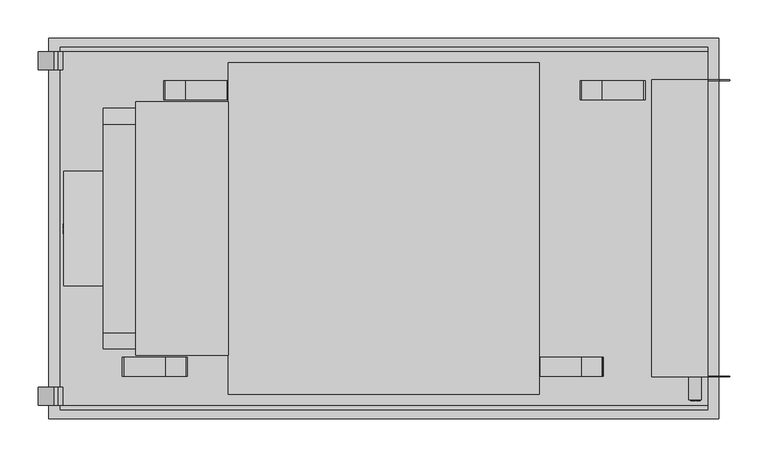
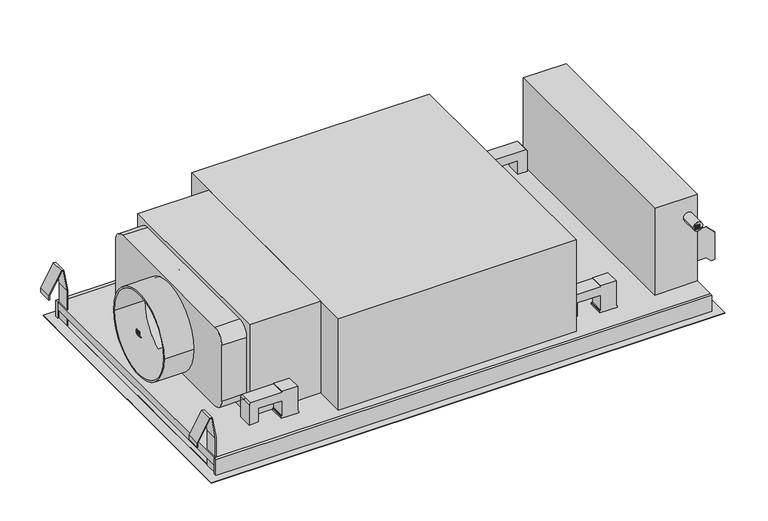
"""IFC4 building model written with IfcOpenShell, lengths in millimetres: proxy geometry, 12564110_NER_DAC2940_WSMA : 28C2940H_NER_12564110_DAC2940_WSMA."""

from ifc_helpers import new_model, si_unit, point, frame, frame_2d, origin, origin_with_axes, place, context, project, spatial, polyline, circle_curve, ellipse_curve, trimmed, segment, composite_curve, outline, extrude, faceted_brep, source, transform, mapped, element, save
from ifc_brep_helpers import plane_surface, cylinder_surface, revolved_surface, extruded_surface, advanced_brep


def specialty_equipment_2b08fcfb(model_context):
    return source(origin(), model_context, "Body", "SolidModel", [
        extrude(outline(polyline([(0.0, 0.0), (1.1495, 0.0), (1.1495, 6.3555), (0.0, 6.3555), (0.0, 7.9515), (4.18, 7.9515), (4.18, 6.3555), (3.04, 6.3555), (3.04, 2.3238752), (7.2865, 7.9515), (11.552, 2.1987777), (11.552, 6.3555), (10.3835, 6.3555), (10.3835, 7.9515), (17.9645, 7.9515), (17.9645, 6.3555), (16.758, 6.3555), (16.758, 0.0), (17.9645, 0.0), (17.9645, -1.5485), (12.179, -1.5485), (9.405, 2.014), (6.6215, -1.5485), (0.0, -1.5485), (0.0, 0.0)])), frame((-394.9682202, 221.9339142, 5.9781829), z_axis=(-0.25881904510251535, 0.0, 0.9659258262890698), x_axis=(0.0, 1.0, 0.0)), (0.0, 0.0, 1.0), 1.0),
        extrude(outline(polyline([(0.0, 0.0), (1.14, 0.0), (1.14, 6.3555), (0.0, 6.3555), (0.0, 7.9515), (7.7045, 7.9515), (7.7045, 6.3555), (6.536, 6.3555), (6.536, -1.5485), (0.0, -1.5485), (0.0, 0.0)])), frame((-394.9682202, 260.4849142, 5.9781829), z_axis=(-0.25881904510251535, 0.0, 0.9659258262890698), x_axis=(0.0, 1.0, 0.0)), (0.0, 0.0, 1.0), 1.0),
        extrude(outline(polyline([(0.0, 0.0), (1.6999427, 0.0), (1.7088618, -3.5531031), (0.012954, -3.5617037), (0.0, 0.0)])), frame((-394.0138855, 243.2139142, 6.2338962), z_axis=(-0.25881904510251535, 0.0, 0.9659258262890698), x_axis=(-0.8744764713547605, 0.42472021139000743, -0.23431526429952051)), (0.0, 0.0, 1.0), 1.0),
        extrude(outline(polyline([(0.5859016, 2.8667553), (2.1254061, 3.588992), (2.6055523, 2.5655224), (6.1317919, 4.2198077), (5.6516457, 5.2432772), (7.0965438, 5.9211306), (10.2800342, -0.8647304), (8.835136, -1.5425838), (8.3670943, -0.544916), (3.3013503, -2.921438), (0.5859016, 2.8667553)])), frame((-394.0138855, 243.2139142, 6.2338962), z_axis=(-0.25881904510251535, 0.0, 0.9659258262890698), x_axis=(-0.8744764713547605, 0.42472021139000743, -0.23431526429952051)), (0.0, 0.0, 1.0), 1.0),
        advanced_brep(
        [(-400.4739974, 253.5974142, 4.5029144), (-399.5471916, 253.5974142, 4.7512513), (-399.5471916, 259.9529142, 4.7512513), (-399.5471916, 248.8949142, 4.7512513), (-402.6487794, 251.5074142, 3.9201833), (-400.4739974, 259.7914142, 4.5029144), (-400.4739974, 256.9224142, 4.5029144), (-401.5017425, 254.6614142, 4.2275309), (-398.3726258, 253.5974142, 5.0659752), (-397.3724096, 253.5974142, 5.3339823), (-397.3724096, 255.2219142, 5.3339823), (-398.3726258, 255.2219142, 5.0659752), (-400.7328165, 253.5974142, 5.4688402), (-401.7605616, 254.6614142, 5.1934567), (-400.7328165, 256.9224142, 5.4688402), (-400.7328165, 259.7914142, 5.4688402), (-402.9075985, 251.5074142, 4.8861091), (-399.8060106, 248.8949142, 5.7171771), (-399.8060106, 259.9529142, 5.7171771), (-399.8060106, 253.5974142, 5.7171771), (-398.6314448, 253.5974142, 6.031901), (-398.6314448, 255.2219142, 6.031901), (-397.6312286, 255.2219142, 6.2999082), (-397.6312286, 253.5974142, 6.2999082)],
        [
            (0, 1),
            (1, 2),
            (2, 3, ellipse_curve(frame((-399.5471916, 254.4239142, 4.7512513), z_axis=(0.25881904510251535, 0.0, -0.9659258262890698), x_axis=(0.0, -1.0, 0.0)), 5.529, 4.5695)),
            (3, 4, circle_curve(frame((-399.2351976, 252.571466, 4.8348498), z_axis=(0.25881904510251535, 0.0, -0.9659258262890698), x_axis=(-0.9659258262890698, 0.0, -0.25881904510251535)), 3.690713)),
            (4, 5, circle_curve(frame((-396.8126556, 254.3132316, 5.483968), z_axis=(0.25881904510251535, 0.0, -0.9659258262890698), x_axis=(-0.9659258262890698, 0.0, -0.25881904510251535)), 6.6617096)),
            (5, 6),
            (6, 7, circle_curve(frame((-399.620602, 255.1257966, 4.731581), z_axis=(-0.25881904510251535, 0.0, 0.9659258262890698), x_axis=(-0.9659258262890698, 0.0, -0.25881904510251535)), 2.0021007)),
            (7, 0, circle_curve(frame((-400.4739974, 254.6614142, 4.5029144), z_axis=(-0.25881904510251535, 0.0, 0.9659258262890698), x_axis=(-0.9659258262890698, 0.0, -0.25881904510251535)), 1.064)),
            (8, 9),
            (9, 10, circle_curve(frame((-397.3724096, 254.4096642, 5.3339823), z_axis=(-0.25881904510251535, 0.0, 0.9659258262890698), x_axis=(-0.9659258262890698, 0.0, -0.25881904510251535)), 0.81225)),
            (10, 11),
            (11, 8),
            (12, 13, circle_curve(frame((-400.7328165, 254.6614142, 5.4688402), z_axis=(0.25881904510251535, 0.0, -0.9659258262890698), x_axis=(-0.9659258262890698, 0.0, -0.25881904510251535)), 1.064)),
            (13, 14, circle_curve(frame((-399.879421, 255.1257966, 5.6975068), z_axis=(0.25881904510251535, 0.0, -0.9659258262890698), x_axis=(-0.9659258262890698, 0.0, -0.25881904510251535)), 2.0021007)),
            (14, 15),
            (15, 16, circle_curve(frame((-397.0714746, 254.3132316, 6.4498938), z_axis=(-0.25881904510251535, 0.0, 0.9659258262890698), x_axis=(-0.9659258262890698, 0.0, -0.25881904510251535)), 6.6617096)),
            (16, 17, circle_curve(frame((-399.4940166, 252.571466, 5.8007756), z_axis=(-0.25881904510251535, 0.0, 0.9659258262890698), x_axis=(-0.9659258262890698, 0.0, -0.25881904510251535)), 3.690713)),
            (17, 18, ellipse_curve(frame((-399.8060106, 254.4239142, 5.7171771), z_axis=(-0.25881904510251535, 0.0, 0.9659258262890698), x_axis=(0.0, -1.0, 0.0)), 5.529, 4.5695)),
            (18, 19),
            (19, 12),
            (20, 21),
            (21, 22),
            (22, 23, circle_curve(frame((-397.6312286, 254.4096642, 6.2999082), z_axis=(0.25881904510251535, 0.0, -0.9659258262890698), x_axis=(-0.9659258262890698, 0.0, -0.25881904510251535)), 0.81225)),
            (23, 20),
            (0, 12),
            (19, 1),
            (18, 2),
            (5, 15),
            (14, 6),
            (17, 3),
            (13, 7),
            (16, 4),
            (8, 20),
            (23, 9),
            (22, 10),
            (21, 11),
        ],
        [
            plane_surface(frame((-399.5471916, 253.5974142, 4.7512513), z_axis=(0.25881904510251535, 0.0, -0.9659258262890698), x_axis=(0.9659258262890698, 0.0, 0.25881904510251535))),
            plane_surface(frame((-399.8060106, 253.5974142, 5.7171771), z_axis=(-0.25881904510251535, 0.0, 0.9659258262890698), x_axis=(-0.9659258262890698, 0.0, -0.25881904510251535))),
            plane_surface(frame((-400.4739974, 253.5974142, 4.5029144), z_axis=(0.0, 1.0000000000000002, 0.0), x_axis=(-0.2588190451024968, 0.0, 0.9659258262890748))),
            plane_surface(frame((-399.5471916, 253.5974142, 4.7512513), z_axis=(-0.9659258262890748, 0.0, -0.2588190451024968), x_axis=(-0.2588190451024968, 0.0, 0.9659258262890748))),
            plane_surface(frame((-400.4739974, 259.7914142, 4.5029144), z_axis=(0.9659258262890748, 0.0, 0.2588190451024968), x_axis=(-0.2588190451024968, 0.0, 0.9659258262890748))),
            extruded_surface(trimmed(ellipse_curve(frame((-400.0648297, 254.4239142, 6.6831029), z_axis=(0.25881904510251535, 0.0, -0.9659258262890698), x_axis=(0.0, -1.0, 0.0)), 5.529, 4.5695), [point((-400.0648297, 259.9529142, 6.6831029))], [point((-400.0648297, 248.8949142, 6.6831029))], True, "CARTESIAN"), (0.25881910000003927, 0.0, -0.9659258), 0.999999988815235),
            revolved_surface(polyline([(-401.81330178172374, 255.1257966, 5.179325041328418), (-401.55448273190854, 255.1257966, 4.213399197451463)]), (-399.879421, 255.1257966, 5.6975068), (-0.25881904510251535, 0.0, 0.9659258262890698)),
            revolved_surface(polyline([(-401.76056157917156, 254.6614142, 5.193456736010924), (-401.50174252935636, 254.6614142, 4.227530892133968)]), (-400.7328165, 254.6614142, 5.4688402), (-0.25881904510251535, 0.0, 0.9659258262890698)),
            cylinder_surface(frame((-399.4940166, 252.571466, 5.8007756), z_axis=(0.25881904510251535, 0.0, -0.9659258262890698), x_axis=(-0.9659258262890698, 0.0, -0.25881904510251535)), 3.690713),
            cylinder_surface(frame((-397.0714746, 254.3132316, 6.4498938), z_axis=(0.25881904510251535, 0.0, -0.9659258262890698), x_axis=(-0.9659258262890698, 0.0, -0.25881904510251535)), 6.6617096),
            plane_surface(frame((-398.3726258, 253.5974142, 5.0659752), z_axis=(0.0, 1.0000000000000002, 0.0), x_axis=(-0.2588190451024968, 0.0, 0.9659258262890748))),
            revolved_surface(polyline([(-398.41580185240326, 254.4096642, 6.089682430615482), (-398.15698279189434, 254.4096642, 5.123756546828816)]), (-397.6312286, 254.4096642, 6.2999082), (-0.25881904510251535, 0.0, 0.9659258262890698)),
            plane_surface(frame((-397.3724096, 255.2219142, 5.3339823), z_axis=(0.0, -1.0000000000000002, 0.0), x_axis=(-0.2588190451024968, 0.0, 0.9659258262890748))),
            plane_surface(frame((-398.3726258, 255.2219142, 5.0659752), z_axis=(0.9659258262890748, 0.0, 0.2588190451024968), x_axis=(-0.2588190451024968, 0.0, 0.9659258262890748))),
        ],
        [
            (0, [[1, 2, 3, 4, 5, 6, 7, 8], [9, 10, 11, 12]]),
            (1, [[13, 14, 15, 16, 17, 18, 19, 20], [21, 22, 23, 24]]),
            (2, [[-1, 25, -20, 26]]),
            (3, [[-2, -26, -19, 27]]),
            (4, [[-6, 28, -15, 29]]),
            (5, [[-3, -27, -18, 30]]),
            (6, [[-7, -29, -14, 31]]),
            (7, [[-8, -31, -13, -25]]),
            (8, [[-4, -30, -17, 32]]),
            (9, [[-5, -32, -16, -28]]),
            (10, [[-9, 33, -24, 34]]),
            (11, [[-10, -34, -23, 35]]),
            (12, [[-11, -35, -22, 36]]),
            (13, [[-12, -36, -21, -33]]),
        ],
    ),
        advanced_brep(
        [(-400.4739974, 273.4239142, 4.5029144), (-399.5471916, 273.4239142, 4.7512513), (-399.5471916, 279.7794142, 4.7512513), (-399.5471916, 268.7214142, 4.7512513), (-402.6487794, 271.3339142, 3.9201833), (-400.4739974, 279.6179142, 4.5029144), (-400.4739974, 276.7489142, 4.5029144), (-401.5017425, 274.4879142, 4.2275309), (-398.3726258, 273.4239142, 5.0659752), (-397.3724096, 273.4239142, 5.3339823), (-397.3724096, 275.0484142, 5.3339823), (-398.3726258, 275.0484142, 5.0659752), (-400.7328165, 273.4239142, 5.4688402), (-401.7605616, 274.4879142, 5.1934567), (-400.7328165, 276.7489142, 5.4688402), (-400.7328165, 279.6179142, 5.4688402), (-402.9075985, 271.3339142, 4.8861091), (-399.8060106, 268.7214142, 5.7171771), (-399.8060106, 279.7794142, 5.7171771), (-399.8060106, 273.4239142, 5.7171771), (-398.6314448, 273.4239142, 6.031901), (-398.6314448, 275.0484142, 6.031901), (-397.6312286, 275.0484142, 6.2999082), (-397.6312286, 273.4239142, 6.2999082)],
        [
            (0, 1),
            (1, 2),
            (2, 3, ellipse_curve(frame((-399.5471916, 274.2504142, 4.7512513), z_axis=(0.25881904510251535, 0.0, -0.9659258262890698), x_axis=(0.0, -1.0, 0.0)), 5.529, 4.5695)),
            (3, 4, circle_curve(frame((-399.2351976, 272.397966, 4.8348498), z_axis=(0.25881904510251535, 0.0, -0.9659258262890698), x_axis=(-0.9659258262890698, 0.0, -0.25881904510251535)), 3.690713)),
            (4, 5, circle_curve(frame((-396.8126556, 274.1397316, 5.483968), z_axis=(0.25881904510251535, 0.0, -0.9659258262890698), x_axis=(-0.9659258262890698, 0.0, -0.25881904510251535)), 6.6617096)),
            (5, 6),
            (6, 7, circle_curve(frame((-399.620602, 274.9522966, 4.731581), z_axis=(-0.25881904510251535, 0.0, 0.9659258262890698), x_axis=(-0.9659258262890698, 0.0, -0.25881904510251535)), 2.0021007)),
            (7, 0, circle_curve(frame((-400.4739974, 274.4879142, 4.5029144), z_axis=(-0.25881904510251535, 0.0, 0.9659258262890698), x_axis=(-0.9659258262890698, 0.0, -0.25881904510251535)), 1.064)),
            (8, 9),
            (9, 10, circle_curve(frame((-397.3724096, 274.2361642, 5.3339823), z_axis=(-0.25881904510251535, 0.0, 0.9659258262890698), x_axis=(-0.9659258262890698, 0.0, -0.25881904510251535)), 0.81225)),
            (10, 11),
            (11, 8),
            (12, 13, circle_curve(frame((-400.7328165, 274.4879142, 5.4688402), z_axis=(0.25881904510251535, 0.0, -0.9659258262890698), x_axis=(-0.9659258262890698, 0.0, -0.25881904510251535)), 1.064)),
            (13, 14, circle_curve(frame((-399.879421, 274.9522966, 5.6975068), z_axis=(0.25881904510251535, 0.0, -0.9659258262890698), x_axis=(-0.9659258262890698, 0.0, -0.25881904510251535)), 2.0021007)),
            (14, 15),
            (15, 16, circle_curve(frame((-397.0714746, 274.1397316, 6.4498938), z_axis=(-0.25881904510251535, 0.0, 0.9659258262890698), x_axis=(-0.9659258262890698, 0.0, -0.25881904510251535)), 6.6617096)),
            (16, 17, circle_curve(frame((-399.4940166, 272.397966, 5.8007756), z_axis=(-0.25881904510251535, 0.0, 0.9659258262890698), x_axis=(-0.9659258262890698, 0.0, -0.25881904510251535)), 3.690713)),
            (17, 18, ellipse_curve(frame((-399.8060106, 274.2504142, 5.7171771), z_axis=(-0.25881904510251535, 0.0, 0.9659258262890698), x_axis=(0.0, -1.0, 0.0)), 5.529, 4.5695)),
            (18, 19),
            (19, 12),
            (20, 21),
            (21, 22),
            (22, 23, circle_curve(frame((-397.6312286, 274.2361642, 6.2999082), z_axis=(0.25881904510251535, 0.0, -0.9659258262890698), x_axis=(-0.9659258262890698, 0.0, -0.25881904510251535)), 0.81225)),
            (23, 20),
            (0, 12),
            (19, 1),
            (18, 2),
            (5, 15),
            (14, 6),
            (17, 3),
            (13, 7),
            (16, 4),
            (8, 20),
            (23, 9),
            (22, 10),
            (21, 11),
        ],
        [
            plane_surface(frame((-399.5471916, 273.4239142, 4.7512513), z_axis=(0.25881904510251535, 0.0, -0.9659258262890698), x_axis=(0.9659258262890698, 0.0, 0.25881904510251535))),
            plane_surface(frame((-399.8060106, 273.4239142, 5.7171771), z_axis=(-0.25881904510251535, 0.0, 0.9659258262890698), x_axis=(-0.9659258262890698, 0.0, -0.25881904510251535))),
            plane_surface(frame((-400.4739974, 273.4239142, 4.5029144), z_axis=(0.0, 1.0000000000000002, 0.0), x_axis=(-0.2588190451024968, 0.0, 0.9659258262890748))),
            plane_surface(frame((-399.5471916, 273.4239142, 4.7512513), z_axis=(-0.9659258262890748, 0.0, -0.2588190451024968), x_axis=(-0.2588190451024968, 0.0, 0.9659258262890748))),
            plane_surface(frame((-400.4739974, 279.6179142, 4.5029144), z_axis=(0.9659258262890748, 0.0, 0.2588190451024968), x_axis=(-0.2588190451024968, 0.0, 0.9659258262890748))),
            extruded_surface(trimmed(ellipse_curve(frame((-400.0648297, 274.2504142, 6.6831029), z_axis=(0.25881904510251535, 0.0, -0.9659258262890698), x_axis=(0.0, -1.0, 0.0)), 5.529, 4.5695), [point((-400.0648297, 279.7794142, 6.6831029))], [point((-400.0648297, 268.7214142, 6.6831029))], True, "CARTESIAN"), (0.25881910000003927, 0.0, -0.9659258), 0.999999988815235),
            revolved_surface(polyline([(-401.81330178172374, 274.9522966, 5.179325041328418), (-401.55448273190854, 274.9522966, 4.213399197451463)]), (-399.879421, 274.9522966, 5.6975068), (-0.25881904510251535, 0.0, 0.9659258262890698)),
            revolved_surface(polyline([(-401.76056157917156, 274.4879142, 5.193456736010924), (-401.50174252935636, 274.4879142, 4.227530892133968)]), (-400.7328165, 274.4879142, 5.4688402), (-0.25881904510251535, 0.0, 0.9659258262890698)),
            cylinder_surface(frame((-399.4940166, 272.397966, 5.8007756), z_axis=(0.25881904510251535, 0.0, -0.9659258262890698), x_axis=(-0.9659258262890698, 0.0, -0.25881904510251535)), 3.690713),
            cylinder_surface(frame((-397.0714746, 274.1397316, 6.4498938), z_axis=(0.25881904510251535, 0.0, -0.9659258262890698), x_axis=(-0.9659258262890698, 0.0, -0.25881904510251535)), 6.6617096),
            plane_surface(frame((-398.3726258, 273.4239142, 5.0659752), z_axis=(0.0, 1.0000000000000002, 0.0), x_axis=(-0.2588190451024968, 0.0, 0.9659258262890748))),
            revolved_surface(polyline([(-398.41580185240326, 274.2361642, 6.089682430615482), (-398.15698279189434, 274.2361642, 5.123756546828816)]), (-397.6312286, 274.2361642, 6.2999082), (-0.25881904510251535, 0.0, 0.9659258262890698)),
            plane_surface(frame((-397.3724096, 275.0484142, 5.3339823), z_axis=(0.0, -1.0000000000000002, 0.0), x_axis=(-0.2588190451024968, 0.0, 0.9659258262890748))),
            plane_surface(frame((-398.3726258, 275.0484142, 5.0659752), z_axis=(0.9659258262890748, 0.0, 0.2588190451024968), x_axis=(-0.2588190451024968, 0.0, 0.9659258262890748))),
        ],
        [
            (0, [[1, 2, 3, 4, 5, 6, 7, 8], [9, 10, 11, 12]]),
            (1, [[13, 14, 15, 16, 17, 18, 19, 20], [21, 22, 23, 24]]),
            (2, [[-1, 25, -20, 26]]),
            (3, [[-2, -26, -19, 27]]),
            (4, [[-6, 28, -15, 29]]),
            (5, [[-3, -27, -18, 30]]),
            (6, [[-7, -29, -14, 31]]),
            (7, [[-8, -31, -13, -25]]),
            (8, [[-4, -30, -17, 32]]),
            (9, [[-5, -32, -16, -28]]),
            (10, [[-9, 33, -24, 34]]),
            (11, [[-10, -34, -23, 35]]),
            (12, [[-11, -35, -22, 36]]),
            (13, [[-12, -36, -21, -33]]),
        ],
    ),
        extrude(outline(polyline([(-204.0, 416.5106201), (-204.0, 83.4893799), (-326.0, 83.4893799), (-326.0, 416.5106201), (-204.0, 416.5106201)])), frame((0.0, 0.0, 30.0), z_axis=(0.0, 0.0, 1.0), x_axis=(1.0, 0.0, 0.0)), (0.0, 0.0, 1.0), 166.0),
        extrude(outline(polyline([(425.1935243, 445.0), (425.1935243, 55.0), (351.6000061, 55.0), (351.6000061, 445.0), (425.1935243, 445.0)])), frame((0.0, 0.0, 30.0), z_axis=(0.0, 0.0, 1.0), x_axis=(1.0, 0.0, 0.0)), (0.0, 0.0, 1.0), 157.6000061),
        advanced_brep(
        [(-326.0, 407.6883545, 67.4832764), (-326.0, 407.6883545, 168.5167236), (-326.0, 387.0167236, 189.1883545), (-326.0, 112.9832764, 189.1883545), (-326.0, 92.3116455, 168.5167236), (-326.0, 92.3116455, 67.4832764), (-326.0, 112.9832764, 46.8116455), (-326.0, 211.5404146, 46.8116455), (-326.0, 288.4595854, 46.8116455), (-326.0, 387.0167236, 46.8116455), (-326.0, 322.0, 111.2000008), (-326.0, 282.2201755, 46.8116455), (-326.0, 217.7798245, 46.8116455), (-326.0, 178.0, 111.2000008), (-368.7057465, 407.6883545, 67.4832764), (-368.7057465, 387.0167236, 46.8116455), (-368.7057465, 288.4595854, 46.8116455), (-368.7057465, 325.0, 111.2000008), (-368.7057465, 175.0, 111.2000008), (-368.7057465, 211.5404146, 46.8116455), (-368.7057465, 112.9832764, 46.8116455), (-368.7057465, 92.3116455, 67.4832764), (-368.7057465, 92.3116455, 168.5167236), (-368.7057465, 112.9832764, 189.1883545), (-368.7057465, 387.0167236, 189.1883545), (-368.7057465, 407.6883545, 168.5167236), (-420.0, 175.0, 111.2000008), (-420.0, 325.0, 111.2000008), (-420.0, 178.0, 111.2000008), (-420.0, 322.0, 111.2000008), (-368.7057465, 322.0, 111.2000008), (-368.7057465, 178.0, 111.2000008), (-368.7057465, 217.7798245, 46.8116455), (-368.7057465, 282.2201755, 46.8116455)],
        [
            (0, 1),
            (1, 2, circle_curve(frame((-326.0, 387.0167236, 168.5167236), z_axis=(1.0, 0.0, 0.0), x_axis=(0.0, 1.0, 0.0)), 20.6716309)),
            (2, 3),
            (3, 4, circle_curve(frame((-326.0, 112.9832764, 168.5167236), z_axis=(1.0, 0.0, 0.0), x_axis=(0.0, 1.0, 0.0)), 20.6716309)),
            (4, 5),
            (5, 6, circle_curve(frame((-326.0, 112.9832764, 67.4832764), z_axis=(1.0, 0.0, 0.0), x_axis=(0.0, 1.0, 0.0)), 20.6716309)),
            (6, 7),
            (7, 8, circle_curve(frame((-326.0, 250.0, 111.2000008), z_axis=(1.0, 0.0, 0.0), x_axis=(0.0, 1.0, 0.0)), 75.0)),
            (8, 9),
            (9, 0, circle_curve(frame((-326.0, 387.0167236, 67.4832764), z_axis=(1.0, 0.0, 0.0), x_axis=(0.0, 1.0, 0.0)), 20.6716309)),
            (10, 11, circle_curve(frame((-326.0, 250.0, 111.2000008), z_axis=(-1.0, 0.0, 0.0), x_axis=(0.0, 1.0, 0.0)), 72.0)),
            (11, 12, circle_curve(frame((-326.0, 250.0, 111.2000008), z_axis=(-1.0, 0.0, 0.0), x_axis=(0.0, 1.0, 0.0)), 72.0)),
            (12, 13, circle_curve(frame((-326.0, 250.0, 111.2000008), z_axis=(-1.0, 0.0, 0.0), x_axis=(0.0, 1.0, 0.0)), 72.0)),
            (13, 10, circle_curve(frame((-326.0, 250.0, 111.2000008), z_axis=(-1.0, 0.0, 0.0), x_axis=(0.0, 1.0, 0.0)), 72.0)),
            (14, 15, circle_curve(frame((-368.7057465, 387.0167236, 67.4832764), z_axis=(-1.0, 0.0, 0.0), x_axis=(0.0, 1.0, 0.0)), 20.6716309)),
            (15, 16),
            (16, 17, circle_curve(frame((-368.7057465, 250.0, 111.2000008), z_axis=(1.0, 0.0, 0.0), x_axis=(0.0, 1.0, 0.0)), 75.0)),
            (17, 18, circle_curve(frame((-368.7057465, 250.0, 111.2000008), z_axis=(1.0, 0.0, 0.0), x_axis=(0.0, 1.0, 0.0)), 75.0)),
            (18, 19, circle_curve(frame((-368.7057465, 250.0, 111.2000008), z_axis=(1.0, 0.0, 0.0), x_axis=(0.0, 1.0, 0.0)), 75.0)),
            (19, 20),
            (20, 21, circle_curve(frame((-368.7057465, 112.9832764, 67.4832764), z_axis=(-1.0, 0.0, 0.0), x_axis=(0.0, 1.0, 0.0)), 20.6716309)),
            (21, 22),
            (22, 23, circle_curve(frame((-368.7057465, 112.9832764, 168.5167236), z_axis=(-1.0, 0.0, 0.0), x_axis=(0.0, 1.0, 0.0)), 20.6716309)),
            (23, 24),
            (24, 25, circle_curve(frame((-368.7057465, 387.0167236, 168.5167236), z_axis=(-1.0, 0.0, 0.0), x_axis=(0.0, 1.0, 0.0)), 20.6716309)),
            (25, 14),
            (0, 14),
            (25, 1),
            (24, 2),
            (23, 3),
            (22, 4),
            (21, 5),
            (20, 6),
            (19, 7),
            (15, 9),
            (8, 16),
            (26, 27, circle_curve(frame((-420.0, 250.0, 111.2000008), z_axis=(-1.0, 0.0, 0.0), x_axis=(0.0, 1.0, 0.0)), 75.0)),
            (27, 26, circle_curve(frame((-420.0, 250.0, 111.2000008), z_axis=(-1.0, 0.0, 0.0), x_axis=(0.0, 1.0, 0.0)), 75.0)),
            (28, 29, circle_curve(frame((-420.0, 250.0, 111.2000008), z_axis=(1.0, 0.0, 0.0), x_axis=(0.0, 1.0, 0.0)), 72.0)),
            (29, 28, circle_curve(frame((-420.0, 250.0, 111.2000008), z_axis=(1.0, 0.0, 0.0), x_axis=(0.0, 1.0, 0.0)), 72.0)),
            (27, 17),
            (18, 26),
            (29, 30),
            (30, 31, circle_curve(frame((-368.7057465, 250.0, 111.2000008), z_axis=(1.0, 0.0, 0.0), x_axis=(0.0, 1.0, 0.0)), 72.0)),
            (31, 28),
            (31, 32, circle_curve(frame((-368.7057465, 250.0, 111.2000008), z_axis=(1.0, 0.0, 0.0), x_axis=(0.0, 1.0, 0.0)), 72.0)),
            (32, 12),
            (11, 33),
            (33, 30, circle_curve(frame((-368.7057465, 250.0, 111.2000008), z_axis=(1.0, 0.0, 0.0), x_axis=(0.0, 1.0, 0.0)), 72.0)),
            (31, 13),
            (10, 30),
        ],
        [
            plane_surface(frame((-326.0, 407.6883545, 168.5167236), z_axis=(1.0, 0.0, 0.0), x_axis=(0.0, 0.0, 1.0))),
            plane_surface(frame((-368.7057465, 407.6883545, 168.5167236), z_axis=(-1.0, 0.0, 0.0), x_axis=(0.0, 0.0, -1.0))),
            plane_surface(frame((-326.0, 407.6883545, 67.4832764), z_axis=(0.0, 1.0, 0.0), x_axis=(-1.0, 0.0, 0.0))),
            cylinder_surface(frame((-368.7057465, 387.0167236, 168.5167236), z_axis=(1.0, 0.0, 0.0), x_axis=(0.0, 1.0, 0.0)), 20.6716309),
            plane_surface(frame((-326.0, 387.0167236, 189.1883545), z_axis=(0.0, 0.0, 1.0), x_axis=(-1.0, 0.0, 0.0))),
            cylinder_surface(frame((-368.7057465, 112.9832764, 168.5167236), z_axis=(1.0, 0.0, 0.0), x_axis=(0.0, 1.0, 0.0)), 20.6716309),
            plane_surface(frame((-326.0, 92.3116455, 168.5167236), z_axis=(0.0, -1.0, 0.0), x_axis=(-1.0, 0.0, 0.0))),
            cylinder_surface(frame((-368.7057465, 112.9832764, 67.4832764), z_axis=(1.0, 0.0, 0.0), x_axis=(0.0, 1.0, 0.0)), 20.6716309),
            plane_surface(frame((-326.0, 112.9832764, 46.8116455), z_axis=(0.0, 0.0, -1.0), x_axis=(-1.0, 0.0, 0.0))),
            cylinder_surface(frame((-368.7057465, 387.0167236, 67.4832764), z_axis=(1.0, 0.0, 0.0), x_axis=(0.0, 1.0, 0.0)), 20.6716309),
            plane_surface(frame((-420.0, 325.0, 111.2000008), z_axis=(-1.0, 0.0, 0.0), x_axis=(0.0, 0.0, -1.0))),
            cylinder_surface(frame((-420.0, 250.0, 111.2000008), z_axis=(1.0, 0.0, 0.0), x_axis=(0.0, 1.0, 0.0)), 75.0),
            revolved_surface(polyline([(-420.0, 322.0, 111.2000008), (-368.7057465, 322.0, 111.2000008)]), (0.0, 250.0, 111.2000008), (-1.0, 0.0, 0.0)),
            revolved_surface(polyline([(-420.0, 322.0, 111.2000008), (-326.0, 322.0, 111.2000008)]), (0.0, 250.0, 111.2000008), (-1.0, 0.0, 0.0)),
            revolved_surface(polyline([(-326.0, 322.0, 111.2000008), (-368.7057465, 322.0, 111.2000008)]), (-420.0, 250.0, 111.2000008), (1.0, 0.0, 0.0)),
        ],
        [
            (0, [[1, 2, 3, 4, 5, 6, 7, 8, 9, 10], [11, 12, 13, 14]]),
            (1, [[15, 16, 17, 18, 19, 20, 21, 22, 23, 24, 25, 26]]),
            (2, [[-1, 27, -26, 28]]),
            (3, [[-2, -28, -25, 29]]),
            (4, [[-3, -29, -24, 30]]),
            (5, [[-4, -30, -23, 31]]),
            (6, [[-5, -31, -22, 32]]),
            (7, [[-6, -32, -21, 33]]),
            (8, [[-33, -20, 34, -7]]),
            (8, [[35, -9, 36, -16]]),
            (9, [[-10, -35, -15, -27]]),
            (10, [[37, 38], [39, 40]]),
            (11, [[-38, 41, -17, -36, -8, -34, -19, 42]]),
            (11, [[-37, -42, -18, -41]]),
            (12, [[-40, 43, 44, 45]]),
            (13, [[-39, -45, 46, 47, -12, 48, 49, -43]]),
            (14, [[50, -13, -47, -46]]),
            (14, [[51, -49, -48, -11]]),
            (14, [[-50, -44, -51, -14]]),
        ],
    ),
        extrude(outline(polyline([(204.0, 32.1999969), (-204.0, 32.1999969), (-204.0, 467.8000031), (204.0, 467.8000031), (204.0, 32.1999969)])), frame((0.0, 0.0, 30.0), z_axis=(0.0, 0.0, 1.0), x_axis=(1.0, 0.0, 0.0)), (0.0, 0.0, 1.0), 166.0),
        extrude(outline(polyline([(122.8000031, 440.5), (122.8000031, 425.1935243), (66.8000031, 425.1935243), (66.8000031, 440.5), (58.7999992, 448.5000038), (58.7999992, 454.5), (108.8000031, 454.5), (122.8000031, 440.5)])), frame((0.0, 55.0, 0.0), z_axis=(0.0, 1.0, 0.0), x_axis=(0.0, 0.0, 1.0)), (0.0, 0.0, 1.0), 0.8000031),
        extrude(outline(polyline([(122.8000031, 440.5), (122.8000031, 425.1935243), (66.8000031, 425.1935243), (66.8000031, 440.5), (58.7999992, 448.5000038), (58.7999992, 454.5), (108.8000031, 454.5), (122.8000031, 440.5)])), frame((0.0, 444.0, 0.0), z_axis=(0.0, 1.0, 0.0), x_axis=(0.0, 0.0, 1.0)), (0.0, 0.0, 1.0), 1.0),
        extrude(outline(polyline([(0.8, -421.5250244), (64.8559268, -421.5250244), (103.4362253, -428.327772), (104.1754532, -432.5201416), (66.657778, -454.0250244), (58.5929146, -454.0250244), (58.5929146, -452.7750244), (66.3249664, -452.7750244), (103.5504532, -431.4376221), (103.1458864, -429.5883804), (64.5054245, -422.7750244), (0.8, -422.7750244), (0.8, -421.5250244)])), frame((0.0, 17.8, 0.0), z_axis=(0.0, 1.0, 0.0), x_axis=(0.0, 0.0, 1.0)), (0.0, 0.0, 1.0), 24.0),
        extrude(outline(polyline([(0.8, -421.5250244), (64.8559268, -421.5250244), (103.4362253, -428.327772), (104.1754532, -432.5201416), (66.657778, -454.0250244), (58.5929146, -454.0250244), (58.5929146, -452.7750244), (66.3249664, -452.7750244), (103.5504532, -431.4376221), (103.1458864, -429.5883804), (64.5054245, -422.7750244), (0.8, -422.7750244), (0.8, -421.5250244)])), frame((0.0, 458.2, 0.0), z_axis=(0.0, 1.0, 0.0), x_axis=(0.0, 0.0, 1.0)), (0.0, 0.0, 1.0), 24.0),
        extrude(outline(polyline([(37.2999992, 203.2000122), (37.2999992, 219.2000122), (61.7999992, 219.2000122), (61.7999992, 260.2000122), (34.0, 260.2000122), (34.0, 259.2000122), (33.0, 258.2000122), (30.0, 258.2000122), (30.0, 288.2000122), (33.0, 288.2000122), (34.0, 287.2000122), (34.0, 286.2000122), (78.3000031, 286.2000122), (78.3000031, 260.2000122), (76.8000031, 260.2000122), (76.8000031, 205.7000122), (74.3000031, 203.2000122), (37.2999992, 203.2000122)])), frame((0.0, 55.8000031, 0.0), z_axis=(0.0, 1.0, 0.0), x_axis=(0.0, 0.0, 1.0)), (0.0, 0.0, 1.0), 25.1139038),
        extrude(outline(polyline([(37.2999992, 343.2000122), (74.3000031, 343.2000122), (76.8000031, 340.7000122), (76.8000031, 286.2000122), (78.3000031, 286.2000122), (78.3000031, 260.2000122), (34.0, 260.2000122), (34.0, 259.2000122), (33.0, 258.2000122), (30.0, 258.2000122), (30.0, 288.2000122), (33.0, 288.2000122), (34.0, 287.2000122), (34.0, 286.2000122), (61.7999992, 286.2000122), (61.7999992, 327.2000122), (37.2999992, 327.2000122), (37.2999992, 343.2000122)])), frame((0.0, 419.0860931, 0.0), z_axis=(0.0, 1.0, 0.0), x_axis=(0.0, 0.0, 1.0)), (0.0, 0.0, 1.0), 25.1139038),
        extrude(outline(polyline([(37.2999992, -343.1999817), (37.2999992, -327.1999817), (61.7999992, -327.1999817), (61.7999992, -286.1999817), (34.0, -286.1999817), (34.0, -287.1999817), (33.0, -288.1999817), (30.0, -288.1999817), (30.0, -258.1999817), (33.0, -258.1999817), (34.0, -259.1999817), (34.0, -260.1999817), (78.3000031, -260.1999817), (78.3000031, -286.1999817), (76.8000031, -286.1999817), (76.8000031, -340.6999817), (74.3000031, -343.1999817), (37.2999992, -343.1999817)])), frame((0.0, 55.8000031, 0.0), z_axis=(0.0, 1.0, 0.0), x_axis=(0.0, 0.0, 1.0)), (0.0, 0.0, 1.0), 25.1139038),
        extrude(outline(polyline([(37.2999992, -204.0), (74.3000031, -204.0), (76.8000031, -206.5), (76.8000031, -261.0), (78.3000031, -261.0), (78.3000031, -287.0), (34.0, -287.0), (34.0, -288.0), (33.0, -289.0), (30.0, -289.0), (30.0, -259.0), (33.0, -259.0), (34.0, -260.0), (34.0, -261.0), (61.7999992, -261.0), (61.7999992, -220.0), (37.2999992, -220.0), (37.2999992, -204.0)])), frame((0.0, 419.0860931, 0.0), z_axis=(0.0, 1.0, 0.0), x_axis=(0.0, 0.0, 1.0)), (0.0, 0.0, 1.0), 25.1139038),
        extrude(outline(composite_curve([segment(trimmed(circle_curve(frame_2d((152.6000061, 408.6768188)), 8.0), [point((152.6000061, 400.6768188))], [point((152.6000061, 416.6768188))], False, "CARTESIAN"), True, "CONTINUOUS"), segment(trimmed(circle_curve(frame_2d((152.6000061, 408.6768188)), 8.0), [point((152.6000061, 416.6768188))], [point((152.6000061, 400.6768188))], False, "CARTESIAN"), True, "CONTINUOUS")], self_intersect=False)), frame((0.0, 25.0, 0.0), z_axis=(0.0, 1.0, 0.0), x_axis=(0.0, 0.0, 1.0)), (0.0, 0.0, 1.0), 30.0),
        extrude(outline(polyline([(148.6000061, 402.7750106), (148.6000061, 408.6768188), (149.6045692, 408.6768188), (149.6045692, 403.7795737), (152.2415473, 403.7795737), (152.2415473, 408.3001077), (153.2461104, 408.3001077), (153.2461104, 403.7795737), (155.6319478, 403.7795737), (155.6319478, 408.5512485), (156.6365109, 408.5512485), (156.6365109, 402.7750106), (148.6000061, 402.7750106)])), frame((0.0, 24.0, 0.0), z_axis=(0.0, 1.0, 0.0), x_axis=(0.0, 0.0, 1.0)), (0.0, 0.0, 1.0), 1.0),
        extrude(outline(polyline([(148.6000061, 410.1836635), (148.6000061, 415.206479), (149.6045692, 415.206479), (149.6045692, 411.1882266), (156.6365109, 411.1882266), (156.6365109, 410.1836635), (148.6000061, 410.1836635)])), frame((0.0, 24.0, 0.0), z_axis=(0.0, 1.0, 0.0), x_axis=(0.0, 0.0, 1.0)), (0.0, 0.0, 1.0), 1.0),
        extrude(outline(polyline([(250.9417779, 117.0365048), (250.9417779, 112.4355273), (251.4499456, 110.4067807), (253.1510319, 109.8789927), (254.3321784, 110.1458298), (255.0130053, 110.9041572), (255.2111711, 112.4355273), (255.2111711, 117.0365048), (256.2157342, 117.0365048), (256.2157342, 112.4002107), (255.9106374, 110.3881414), (254.89234, 109.262913), (253.0568541, 108.8744296), (251.1929187, 109.3207931), (250.209938, 110.4783951), (249.9372148, 112.4002107), (249.9372148, 117.0365048), (250.9417779, 117.0365048)])), frame((-421.0, 0.0, 0.0), z_axis=(1.0, 0.0, 0.0), x_axis=(0.0, 1.0, 0.0)), (0.0, 0.0, 1.0), 1.0),
        extrude(outline(polyline([(248.1792294, 109.0), (243.1564139, 109.0), (243.1564139, 110.0045631), (247.1746663, 110.0045631), (247.1746663, 117.0365048), (248.1792294, 117.0365048), (248.1792294, 109.0)])), frame((-421.0, 0.0, 0.0), z_axis=(1.0, 0.0, 0.0), x_axis=(0.0, 1.0, 0.0)), (0.0, 0.0, 1.0), 1.0),
        extrude(outline(polyline([(440.0, 500.0), (440.0, 0.0), (-440.0, 0.0), (-440.0, 500.0), (440.0, 500.0)]), holes=[polyline([(420.0, 482.6999969), (-422.2000122, 482.6999969), (-422.2000122, 17.3000031), (420.0, 17.3000031), (420.0, 482.6999969)])]), origin_with_axes(), (0.0, 0.0, 1.0), 0.8),
        faceted_brep([(421.7615168, 17.3000031, 0.0), (421.9698455, 17.3000031, 0.7723983), (418.7954399, 17.3000031, 0.8), (-421.9698448, 17.3000031, 0.772397), (-421.7615112, 17.3000031, 0.0), (-418.7955102, 17.3000031, 0.8), (-421.7615112, 482.6999969, 0.0), (-421.9698448, 482.6999969, 0.772397), (-418.7955102, 482.6999969, 0.8), (421.9698455, 482.6999969, 0.7723983), (421.7615168, 482.6999969, 0.0), (418.7954399, 482.6999969, 0.8), (-361.8279114, 17.3000031, 16.1654968), (-361.8279114, 482.6999969, 16.1654968), (361.8263838, 482.6999969, 16.1654968), (361.8263838, 17.3000031, 16.1654968), (356.2323914, 197.7705688, 16.1654968), (344.6442261, 197.7705688, 16.1654968), (344.6442261, 171.9410553, 16.1654968), (356.2323914, 171.9410553, 16.1654968), (356.2323914, 224.0850792, 16.1654968), (356.2323914, 275.9145947, 16.1654968), (344.6442261, 275.9145947, 16.1654968), (344.6442261, 224.0850792, 16.1654968), (356.2323914, 276.1570797, 16.1654968), (356.2323914, 301.9865952, 16.1654968), (344.6442261, 301.9865952, 16.1654968), (344.6442261, 276.1570797, 16.1654968), (356.2323914, 302.2290802, 16.1654968), (356.2323914, 328.0585937, 16.1654968), (344.6442261, 328.0585937, 16.1654968), (344.6442261, 302.2290802, 16.1654968), (356.2323914, 198.0130539, 16.1654968), (356.2323914, 223.8425694, 16.1654968), (344.6442261, 223.8425694, 16.1654968), (344.6442261, 198.0130539, 16.1654968), (361.9323766, 482.6999969, 16.9654968), (361.9323766, 17.3000031, 16.9654968), (-361.9339068, 482.6999969, 16.9654968), (-361.9339068, 17.3000031, 16.9654968), (425.1935243, 487.8000031, 0.8), (425.1935243, 487.8000031, 30.0), (425.1935243, 482.6999969, 30.0), (425.1935243, 482.6999969, 0.8), (-425.1935243, 487.8000031, 0.8), (-425.1935243, 482.6999969, 0.8), (-425.1935243, 482.6999969, 30.0), (-425.1935243, 487.8000031, 30.0), (425.1935243, 12.1999969, 0.8), (425.1935243, 17.3000031, 0.8), (425.1935243, 17.3000031, 30.0), (425.1935243, 12.1999969, 30.0), (-425.1935243, 12.1999969, 0.8), (-425.1935243, 12.1999969, 30.0), (-425.1935243, 17.3000031, 30.0), (-425.1935243, 17.3000031, 0.8), (344.6442261, 302.2290802, 14.6286736), (356.2323914, 302.2290802, 14.6286736), (344.6442261, 328.0585937, 14.6286736), (356.2323914, 328.0585937, 14.6286736), (344.6442261, 276.1570797, 14.6286736), (356.2323914, 276.1570797, 14.6286736), (344.6442261, 301.9865952, 14.6286736), (356.2323914, 301.9865952, 14.6286736), (344.6442261, 224.0850792, 14.6286736), (356.2323914, 224.0850792, 14.6286736), (356.2323914, 197.7705688, 14.6286736), (356.2323914, 171.9410553, 14.6286736), (344.6442261, 171.9410553, 14.6286736), (344.6442261, 197.7705688, 14.6286736), (356.2323914, 198.0130539, 14.6286736), (344.6442261, 198.0130539, 14.6286736), (344.6442261, 223.8425694, 14.6286736), (356.2323914, 223.8425694, 14.6286736), (344.6442261, 275.9145947, 14.6286736), (356.2323914, 275.9145947, 14.6286736)], [[[0, 1, 2]], [[3, 4, 5]], [[6, 7, 8]], [[9, 10, 11]], [[12, 13, 14, 15], [16, 17, 18, 19], [20, 21, 22, 23], [24, 25, 26, 27], [28, 29, 30, 31], [32, 33, 34, 35]], [[15, 14, 11, 10, 0, 2]], [[1, 0, 10, 9]], [[1, 9, 36, 37]], [[37, 36, 38, 39]], [[39, 38, 7, 3]], [[4, 3, 7, 6]], [[13, 12, 5, 4, 6, 8]], [[40, 41, 42, 43]], [[44, 45, 46, 47]], [[41, 40, 44, 47]], [[42, 41, 47, 46]], [[43, 42, 46, 45, 7, 38, 36, 9]], [[8, 11, 14, 13]], [[40, 43, 9, 11, 8, 7, 45, 44]], [[48, 49, 50, 51]], [[52, 53, 54, 55]], [[48, 51, 53, 52]], [[51, 50, 54, 53]], [[50, 49, 1, 37, 39, 3, 55, 54]], [[2, 5, 12, 15]], [[49, 48, 52, 55, 3, 5, 2, 1]], [[56, 57, 28, 31]], [[58, 56, 31, 30]], [[59, 58, 30, 29]], [[57, 59, 29, 28]], [[60, 61, 24, 27]], [[62, 60, 27, 26]], [[63, 62, 26, 25]], [[61, 63, 25, 24]], [[64, 65, 20, 23]], [[66, 67, 68, 69]], [[70, 71, 72, 73]], [[61, 60, 62, 63]], [[65, 64, 74, 75]], [[57, 56, 58, 59]], [[66, 69, 17, 16]], [[67, 66, 16, 19]], [[71, 70, 32, 35]], [[75, 74, 22, 21]], [[69, 68, 18, 17]], [[68, 67, 19, 18]], [[70, 73, 33, 32]], [[73, 72, 34, 33]], [[72, 71, 35, 34]], [[65, 75, 21, 20]], [[74, 64, 23, 22]]]),
        extrude(outline(polyline([(425.1935243, 482.6999969), (425.1935243, 17.3000031), (-425.1935243, 17.3000031), (-425.1935243, 482.6999969), (425.1935243, 482.6999969)])), frame((0.0, 0.0, 16.9654968), z_axis=(0.0, 0.0, 1.0), x_axis=(1.0, 0.0, 0.0)), (0.0, 0.0, 1.0), 13.0345032),
        extrude(outline(polyline([(340.0, 462.4152985), (340.0, 37.5847015), (-340.0, 37.5847015), (-340.0, 462.4152985), (340.0, 462.4152985)])), frame((0.0, 0.0, 0.8), z_axis=(0.0, 0.0, 1.0), x_axis=(1.0, 0.0, 0.0)), (0.0, 0.0, 1.0), 13.8286735),
    ])


if __name__ == "__main__":
    model = new_model("IFC4")
    model_context = context("Model", 3, world=origin())
    ifc_project = project(units=[si_unit("LENGTHUNIT", "METRE", prefix="MILLI")], contexts=[model_context])
    site = spatial("IfcSite", under=ifc_project)
    building = spatial("IfcBuilding", under=site)
    placement = place(None, origin())
    specialty_equipment_shape = specialty_equipment_2b08fcfb(model_context)
    element("IfcBuildingElementProxy", 1, Name="12564110_NER_DAC2940_WSMA : 28C2940H_NER_12564110_DAC2940_WSMA", ObjectType="12564110_NER_DAC2940_WSMA : 28C2940H_NER_12564110_DAC2940_WSMA", at=placement, inside=building, context=model_context, shape_type="MappedRepresentation", body=[
        mapped(specialty_equipment_shape, transform((0.0, 0.0, 0.0), x_axis=(1.0, 0.0, 0.0), y_axis=(0.0, 1.0, 0.0), z_axis=(0.0, 0.0, 1.0))),
    ])
    save(model, "model.ifc")
